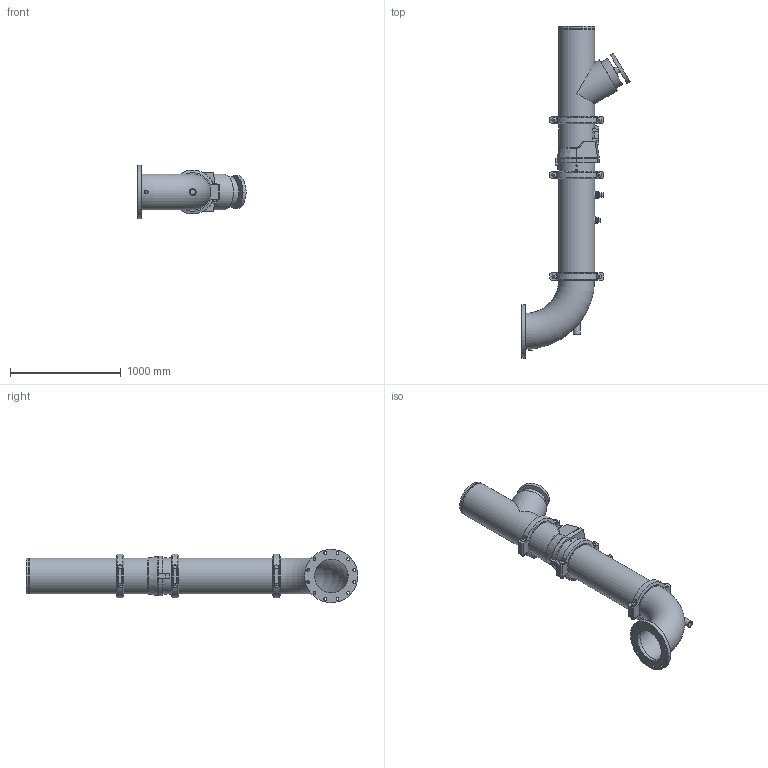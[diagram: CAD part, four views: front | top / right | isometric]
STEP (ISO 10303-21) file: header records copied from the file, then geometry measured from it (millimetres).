
FILE_DESCRIPTION(/* description */ ('VIC DVI PUMP DROP HORZ S/383 (OGSxFLG) (S/924-0.75)','CAx-IF Rec.Pracs.---Representation and Presentation of Product Manufacturing Information (PMI)---4.0---2014-10-13'),/* implementation_level */ '2;1');
FILE_NAME(/* name */ 'C:\Users\Vjadhav\AppData\Roaming\Autodesk\ApplicationPlugins\Victaulic.Temp\A892\Victaulic_IPS_Horizontal DVI_CL 150_Series 383 (OGSxFLG)_924 (0.75)_12.0x12.0 (300x300).stp',/* time_stamp */ '2022-02-28T15:46:28+05:00',/* author */ ('kkamble'),/* organization */ ('Victaulic'),/* preprocessor_version */ 'ST-DEVELOPER v17.2',/* originating_system */ 'Autodesk Inventor 2019',/* authorisation */ '');
FILE_SCHEMA (('AP242_MANAGED_MODEL_BASED_3D_ENGINEERING_MIM_LF { 1 0 10303 442 1 1 4 }'));
Length unit declared in the file: inch
Products named in the file (8): 383-924 (0.75)-12.0x12.0; Pipe-12.0x12.0; 789-12.0; 779-12.0; 924-10.0x0.75; 923-10.0x0.75; 100F-12.0; 077-12.0
Assembly tree (9 placements, depth 2):
  383-924 (0.75)-12.0x12.0
    Pipe-12.0x12.0
    789-12.0
    779-12.0
    077-12.0  x3
    924-10.0x0.75
    923-10.0x0.75
    100F-12.0
Bounding box: 977.9 x 3001.96 x 482.6 mm (x, y, z)
Volume: 69271175.4 mm3; surface area: 7966275.2 mm2
Topology: 9 solids, 15 shells, 440 faces, 1087 edges, 743 vertices
Faces by surface type: plane 257, cylinder 149, cone 17, torus 9, bspline 8
Full cylindrical faces by diameter (mm): 13.716 x4, 20.93 x1, 21.336 x1, 25.4 x24, 26.67 x4, 27.432 x6, 34.29 x1, 38.608 x1, 45.974 x4, 48.26 x1, 55.626 x2, 60.96 x2, 76.2 x1, 273.05 x1, 299.974 x1, 303.225 x2, 304.8 x3, 314.96 x3, 318.287 x7, 323.85 x18, 482.6 x1
Entity records: 10958 total; most frequent: CARTESIAN_POINT 2275, DIRECTION 1777, ORIENTED_EDGE 1594, EDGE_CURVE 797, AXIS2_PLACEMENT_3D 687, VERTEX_POINT 547, EDGE_LOOP 410, LINE 403
